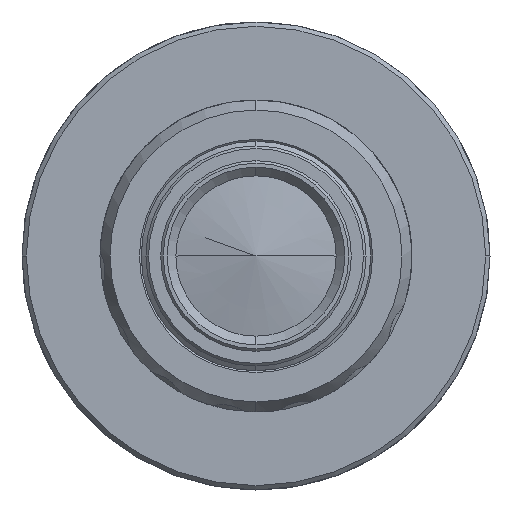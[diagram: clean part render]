
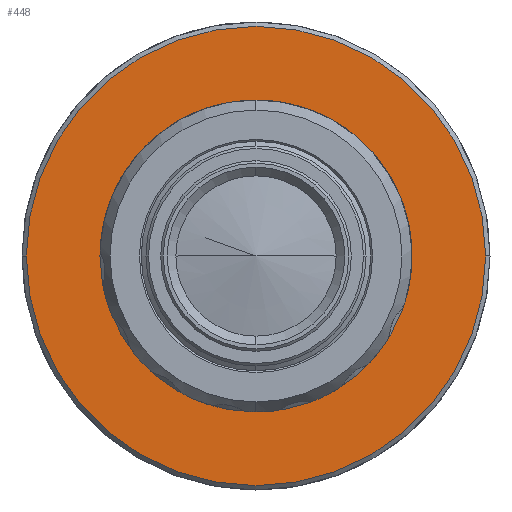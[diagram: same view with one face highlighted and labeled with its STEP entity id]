
A CAD part, left-side view. The second image highlights one B-rep face of the part: STEP entity #448.
In plain terms, the highlighted planar face has unit normal (-1, 0, 0).
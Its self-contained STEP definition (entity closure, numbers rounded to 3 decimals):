
#193 = DIRECTION ( 'NONE',  ( 0., 0., -1. ) ) ;
#246 = CARTESIAN_POINT ( 'NONE',  ( -100., -26.5, 0. ) ) ;
#247 = EDGE_LOOP ( 'NONE', ( #2262, #3359 ) ) ;
#308 = DIRECTION ( 'NONE',  ( 1., 0., 0. ) ) ;
#316 = CIRCLE ( 'NONE', #986, 26.5 ) ;
#448 = ADVANCED_FACE ( 'NONE', ( #1960, #3994 ), #2206, .F. ) ;
#532 = EDGE_CURVE ( 'NONE', #709, #1524, #680, .T. ) ;
#579 = VERTEX_POINT ( 'NONE', #5814 ) ;
#680 = CIRCLE ( 'NONE', #2664, 18. ) ;
#709 = VERTEX_POINT ( 'NONE', #4192 ) ;
#760 = EDGE_CURVE ( 'NONE', #1524, #709, #1957, .T. ) ;
#874 = DIRECTION ( 'NONE',  ( 0., 1., 0. ) ) ;
#986 = AXIS2_PLACEMENT_3D ( 'NONE', #4980, #3578, #874 ) ;
#1117 = DIRECTION ( 'NONE',  ( -1., 0., 0. ) ) ;
#1172 = EDGE_CURVE ( 'NONE', #2942, #579, #4819, .T. ) ;
#1241 = CARTESIAN_POINT ( 'NONE',  ( -100., -31.438, 21.214 ) ) ;
#1263 = DIRECTION ( 'NONE',  ( 0., 0., -1. ) ) ;
#1524 = VERTEX_POINT ( 'NONE', #2058 ) ;
#1621 = AXIS2_PLACEMENT_3D ( 'NONE', #1903, #4180, #4219 ) ;
#1903 = CARTESIAN_POINT ( 'NONE',  ( -100., 0., 0. ) ) ;
#1943 = AXIS2_PLACEMENT_3D ( 'NONE', #5190, #1117, #193 ) ;
#1957 = CIRCLE ( 'NONE', #1943, 18. ) ;
#1960 = FACE_OUTER_BOUND ( 'NONE', #247, .T. ) ;
#2058 = CARTESIAN_POINT ( 'NONE',  ( -100., 0., 18. ) ) ;
#2156 = DIRECTION ( 'NONE',  ( -1., 0., 0. ) ) ;
#2206 = PLANE ( 'NONE',  #5551 ) ;
#2262 = ORIENTED_EDGE ( 'NONE', *, *, #2566, .F. ) ;
#2566 = EDGE_CURVE ( 'NONE', #579, #2942, #316, .T. ) ;
#2664 = AXIS2_PLACEMENT_3D ( 'NONE', #4384, #2156, #1263 ) ;
#2742 = ORIENTED_EDGE ( 'NONE', *, *, #760, .F. ) ;
#2942 = VERTEX_POINT ( 'NONE', #246 ) ;
#3359 = ORIENTED_EDGE ( 'NONE', *, *, #1172, .F. ) ;
#3578 = DIRECTION ( 'NONE',  ( 1., 0., 0. ) ) ;
#3994 = FACE_BOUND ( 'NONE', #5516, .T. ) ;
#4180 = DIRECTION ( 'NONE',  ( 1., 0., 0. ) ) ;
#4192 = CARTESIAN_POINT ( 'NONE',  ( -100., 0., -18. ) ) ;
#4219 = DIRECTION ( 'NONE',  ( 0., 1., 0. ) ) ;
#4366 = DIRECTION ( 'NONE',  ( 0., 0., -1. ) ) ;
#4384 = CARTESIAN_POINT ( 'NONE',  ( -100., 0., 0. ) ) ;
#4435 = ORIENTED_EDGE ( 'NONE', *, *, #532, .F. ) ;
#4819 = CIRCLE ( 'NONE', #1621, 26.5 ) ;
#4980 = CARTESIAN_POINT ( 'NONE',  ( -100., 0., 0. ) ) ;
#5190 = CARTESIAN_POINT ( 'NONE',  ( -100., 0., 0. ) ) ;
#5516 = EDGE_LOOP ( 'NONE', ( #4435, #2742 ) ) ;
#5551 = AXIS2_PLACEMENT_3D ( 'NONE', #1241, #308, #4366 ) ;
#5814 = CARTESIAN_POINT ( 'NONE',  ( -100., 26.5, 0. ) ) ;
